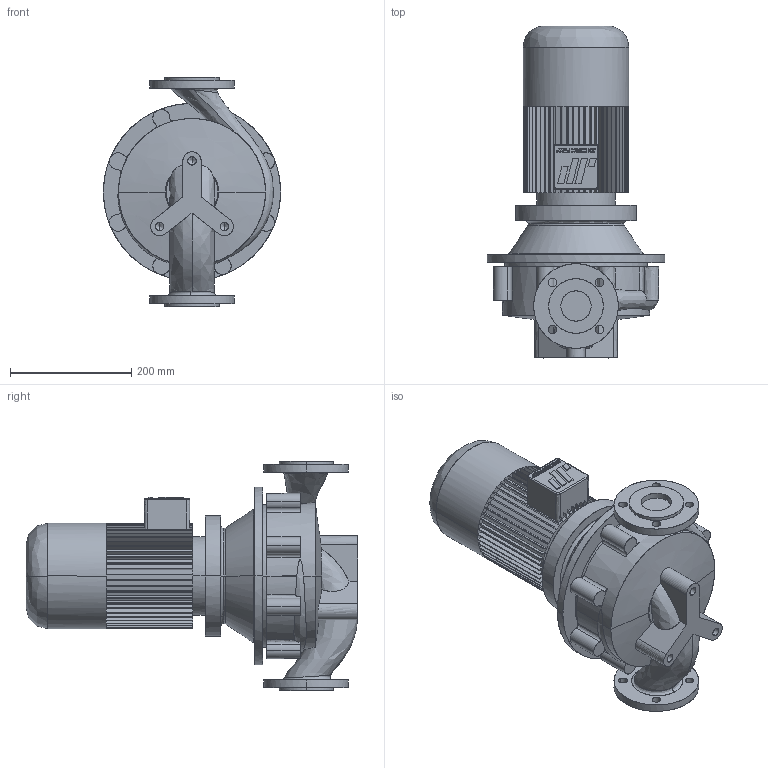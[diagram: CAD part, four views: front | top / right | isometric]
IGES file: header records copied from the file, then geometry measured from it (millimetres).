
Start section: CombiLine
Global section: file name: CLB_50-200_IEC90S.igs; native system:  By UGS Corp.; preprocessor: XPlus GENERIC/IGES 3.0; author: Stageplaats; organization: Johnson Pump Water B.V.; date: 20070713.131129; units: millimetre
Bounding box: 293 x 548.5 x 380 mm (x, y, z)
Surface area: 744336.7 mm2 (no closed solid volume)
Topology: 0 solids, 0 shells, 540 faces, 3288 edges, 3282 vertices
Faces by surface type: bspline 540
